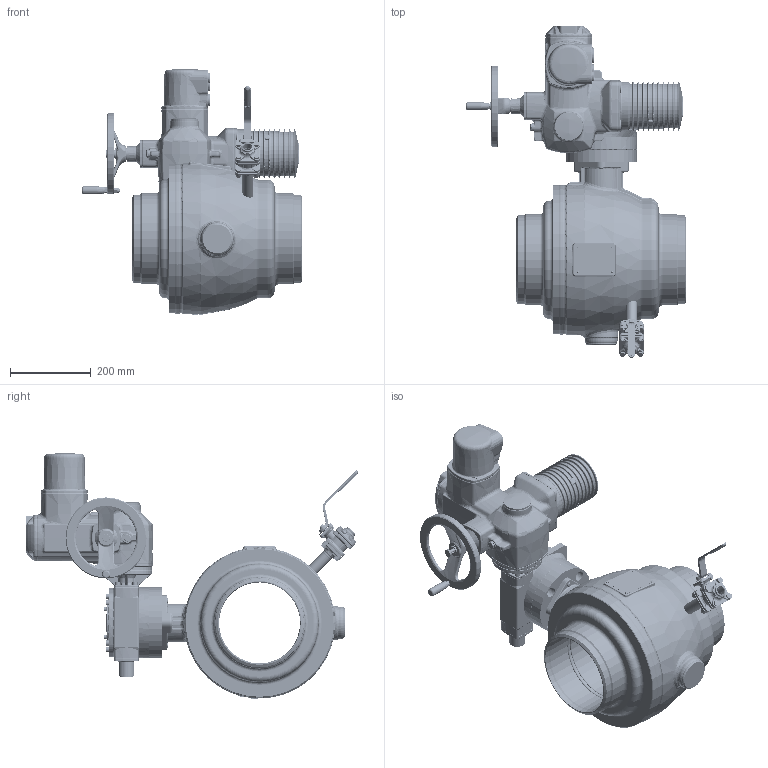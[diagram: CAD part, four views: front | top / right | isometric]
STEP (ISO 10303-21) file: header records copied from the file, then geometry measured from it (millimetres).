
FILE_DESCRIPTION((''),'2;1');
FILE_NAME('ASM0001_ASM','2026-01-28T10:22:21',('schwaba'),('KLINGER'),'CREO PARAMETRIC BY PTC INC, 2023014','CREO PARAMETRIC BY PTC INC, 2023014','');
FILE_SCHEMA(('CONFIG_CONTROL_DESIGN'));
Products named in the file (7): KHSVI_200_FG_FR_WE_F14_ENTL; GS80_3_F14_53; AUFSATZFLANSCH_F10_GS63-GS80; ZYLSCHR-ISKT--M8X25---8_8; GS80_3_53_F14---------------F10_ASM; SA10_2_F10_STD; ASM0001_ASM
Assembly tree (9 placements, depth 3):
  ASM0001_ASM
    KHSVI_200_FG_FR_WE_F14_ENTL
    GS80_3_53_F14---------------F10_ASM
      GS80_3_F14_53
      AUFSATZFLANSCH_F10_GS63-GS80
      ZYLSCHR-ISKT--M8X25---8_8  x4
    SA10_2_F10_STD
Bounding box: 543.1 x 819.87 x 607.1 mm (x, y, z)
Volume: 23939350.2 mm3; surface area: 2631099.6 mm2
Topology: 8 solids, 16 shells, 5985 faces, 14323 edges, 8414 vertices
Faces by surface type: cylinder 1466, plane 1440, bspline 1212, torus 899, cone 734, sphere 155, extrusion 58, revolution 21
Entity records: 341541 total; most frequent: CARTESIAN_POINT 214837, ORIENTED_EDGE 28022, DIRECTION 24295, EDGE_CURVE 14014, AXIS2_PLACEMENT_3D 10179, VERTEX_POINT 8309, EDGE_LOOP 6225, FACE_OUTER_BOUND 5913
